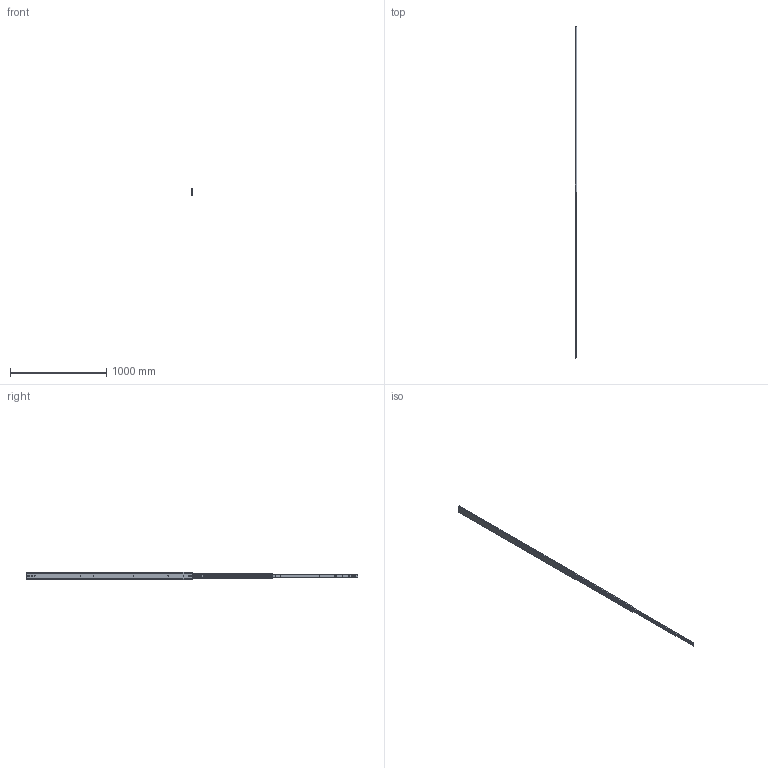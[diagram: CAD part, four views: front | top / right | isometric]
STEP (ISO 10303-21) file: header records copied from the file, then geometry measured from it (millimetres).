
FILE_DESCRIPTION(/* description */ ('Unknown'),/* implementation_level */ '2;1');
FILE_NAME(/* name */ '76J01-68 open',/* time_stamp */ '2024-07-30T14:46:36+08:00',/* author */ ('Unknown'),/* organization */ ('Unknown'),/* preprocessor_version */ 'ST-DEVELOPER v18.104',/* originating_system */ 'Solid Edge',/* authorisation */ 'Unknown');
FILE_SCHEMA (('AUTOMOTIVE_DESIGN {1 0 10303 214 3 1 1}'));
Length unit declared in the file: millimetre
Products named in the file (4): 76J01-68 open; 76J01 68 inch 內_0; 76J01 68 吋中_; 76J01 68 吋
Assembly tree (3 placements, depth 2):
  76J01-68 open
    76J01 68 inch 內_0
    76J01 68 吋中_
    76J01 68 吋
Bounding box: 19.3 x 3453.7 x 76.75 mm (x, y, z)
Volume: 1367665.3 mm3; surface area: 849735.9 mm2
Topology: 3 solids, 3 shells, 196 faces, 606 edges, 410 vertices
Faces by surface type: plane 104, cylinder 92
Full cylindrical faces by diameter (mm): 5.2 x16, 7.1 x2
Entity records: 7179 total; most frequent: CARTESIAN_POINT 1168, DIRECTION 1152, ORIENTED_EDGE 1140, EDGE_CURVE 570, VERTEX_POINT 392, LINE 384, VECTOR 384, AXIS2_PLACEMENT_3D 384
